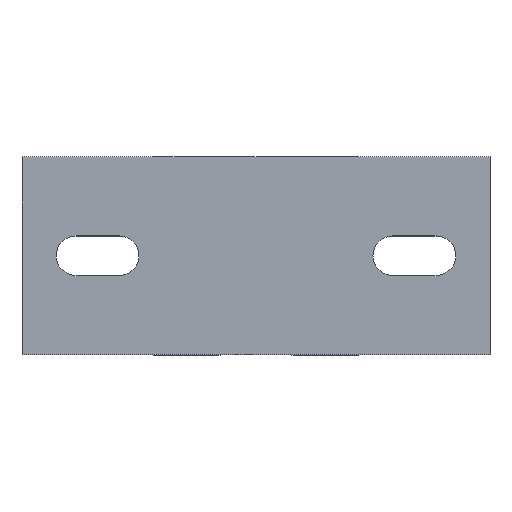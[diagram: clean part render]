
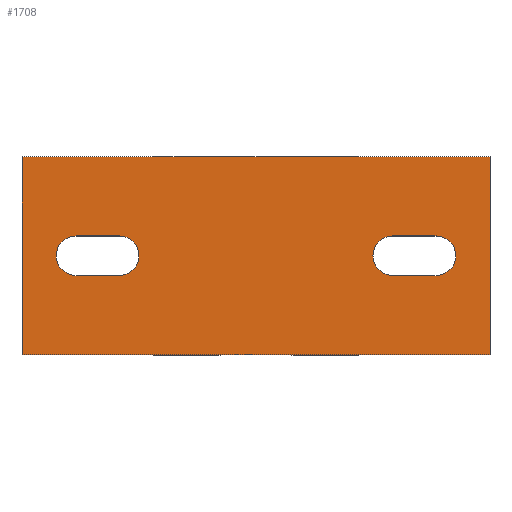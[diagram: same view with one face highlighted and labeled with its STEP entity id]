
A CAD part, top view. The second image highlights one B-rep face of the part: STEP entity #1708.
In plain terms, the highlighted planar face has unit normal (0, 0, 1).
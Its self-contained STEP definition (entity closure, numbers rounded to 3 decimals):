
#70=FACE_BOUND('',#346,.T.);
#71=FACE_BOUND('',#347,.T.);
#216=FACE_OUTER_BOUND('',#345,.T.);
#345=EDGE_LOOP('',(#1448,#1449,#1450,#1451));
#346=EDGE_LOOP('',(#1452,#1453,#1454,#1455));
#347=EDGE_LOOP('',(#1456,#1457,#1458,#1459));
#419=CIRCLE('',#1855,11.);
#421=CIRCLE('',#1859,11.);
#423=CIRCLE('',#1864,11.);
#425=CIRCLE('',#1868,11.);
#552=LINE('',#2756,#702);
#556=LINE('',#2767,#706);
#558=LINE('',#2772,#708);
#563=LINE('',#2786,#713);
#566=LINE('',#2796,#716);
#570=LINE('',#2804,#720);
#573=LINE('',#2810,#723);
#576=LINE('',#2815,#726);
#702=VECTOR('',#2273,24.);
#706=VECTOR('',#2285,24.);
#708=VECTOR('',#2289,24.);
#713=VECTOR('',#2302,24.);
#716=VECTOR('',#2313,110.);
#720=VECTOR('',#2319,260.);
#723=VECTOR('',#2324,110.);
#726=VECTOR('',#2329,260.);
#828=VERTEX_POINT('',#2746);
#829=VERTEX_POINT('',#2747);
#832=VERTEX_POINT('',#2755);
#834=VERTEX_POINT('',#2761);
#836=VERTEX_POINT('',#2770);
#837=VERTEX_POINT('',#2771);
#840=VERTEX_POINT('',#2779);
#842=VERTEX_POINT('',#2785);
#844=VERTEX_POINT('',#2794);
#845=VERTEX_POINT('',#2795);
#848=VERTEX_POINT('',#2803);
#850=VERTEX_POINT('',#2809);
#1027=EDGE_CURVE('',#828,#829,#419,.T.);
#1031=EDGE_CURVE('',#829,#832,#552,.T.);
#1034=EDGE_CURVE('',#832,#834,#421,.T.);
#1037=EDGE_CURVE('',#834,#828,#556,.T.);
#1039=EDGE_CURVE('',#836,#837,#558,.T.);
#1043=EDGE_CURVE('',#837,#840,#423,.T.);
#1046=EDGE_CURVE('',#840,#842,#563,.T.);
#1049=EDGE_CURVE('',#842,#836,#425,.T.);
#1051=EDGE_CURVE('',#844,#845,#566,.T.);
#1055=EDGE_CURVE('',#845,#848,#570,.T.);
#1058=EDGE_CURVE('',#848,#850,#573,.T.);
#1061=EDGE_CURVE('',#850,#844,#576,.T.);
#1448=ORIENTED_EDGE('',*,*,#1051,.F.);
#1449=ORIENTED_EDGE('',*,*,#1061,.F.);
#1450=ORIENTED_EDGE('',*,*,#1058,.F.);
#1451=ORIENTED_EDGE('',*,*,#1055,.F.);
#1452=ORIENTED_EDGE('',*,*,#1027,.T.);
#1453=ORIENTED_EDGE('',*,*,#1031,.T.);
#1454=ORIENTED_EDGE('',*,*,#1034,.T.);
#1455=ORIENTED_EDGE('',*,*,#1037,.T.);
#1456=ORIENTED_EDGE('',*,*,#1039,.T.);
#1457=ORIENTED_EDGE('',*,*,#1043,.T.);
#1458=ORIENTED_EDGE('',*,*,#1046,.T.);
#1459=ORIENTED_EDGE('',*,*,#1049,.T.);
#1609=PLANE('',#1874);
#1708=ADVANCED_FACE('',(#216,#70,#71),#1609,.T.);
#1855=AXIS2_PLACEMENT_3D('',#2748,#2265,#2266);
#1859=AXIS2_PLACEMENT_3D('',#2762,#2278,#2279);
#1864=AXIS2_PLACEMENT_3D('',#2780,#2295,#2296);
#1868=AXIS2_PLACEMENT_3D('',#2791,#2307,#2308);
#1874=AXIS2_PLACEMENT_3D('',#2817,#2331,#2332);
#2265=DIRECTION('center_axis',(0.,0.,-1.));
#2266=DIRECTION('ref_axis',(0.,1.,0.));
#2273=DIRECTION('',(-1.,0.,0.));
#2278=DIRECTION('center_axis',(0.,0.,-1.));
#2279=DIRECTION('ref_axis',(0.,-1.,0.));
#2285=DIRECTION('',(1.,0.,0.));
#2289=DIRECTION('',(1.,0.,0.));
#2295=DIRECTION('center_axis',(0.,0.,-1.));
#2296=DIRECTION('ref_axis',(0.,1.,0.));
#2302=DIRECTION('',(-1.,0.,0.));
#2307=DIRECTION('center_axis',(0.,0.,-1.));
#2308=DIRECTION('ref_axis',(0.,-1.,0.));
#2313=DIRECTION('',(0.,-1.,0.));
#2319=DIRECTION('',(-1.,0.,0.));
#2324=DIRECTION('',(0.,1.,0.));
#2329=DIRECTION('',(1.,0.,0.));
#2331=DIRECTION('center_axis',(0.,0.,1.));
#2332=DIRECTION('ref_axis',(1.,0.,0.));
#2746=CARTESIAN_POINT('',(-76.,11.,12.));
#2747=CARTESIAN_POINT('',(-76.,-11.,12.));
#2748=CARTESIAN_POINT('Origin',(-76.,0.,12.));
#2755=CARTESIAN_POINT('',(-100.,-11.,12.));
#2756=CARTESIAN_POINT('',(-38.,-11.,12.));
#2761=CARTESIAN_POINT('',(-100.,11.,12.));
#2762=CARTESIAN_POINT('Origin',(-100.,0.,12.));
#2767=CARTESIAN_POINT('',(-50.,11.,12.));
#2770=CARTESIAN_POINT('',(76.,11.,12.));
#2771=CARTESIAN_POINT('',(100.,11.,12.));
#2772=CARTESIAN_POINT('',(38.,11.,12.));
#2779=CARTESIAN_POINT('',(100.,-11.,12.));
#2780=CARTESIAN_POINT('Origin',(100.,0.,12.));
#2785=CARTESIAN_POINT('',(76.,-11.,12.));
#2786=CARTESIAN_POINT('',(50.,-11.,12.));
#2791=CARTESIAN_POINT('Origin',(76.,0.,12.));
#2794=CARTESIAN_POINT('',(130.,55.,12.));
#2795=CARTESIAN_POINT('',(130.,-55.,12.));
#2796=CARTESIAN_POINT('',(130.,55.,12.));
#2803=CARTESIAN_POINT('',(-130.,-55.,12.));
#2804=CARTESIAN_POINT('',(130.,-55.,12.));
#2809=CARTESIAN_POINT('',(-130.,55.,12.));
#2810=CARTESIAN_POINT('',(-130.,-55.,12.));
#2815=CARTESIAN_POINT('',(-130.,55.,12.));
#2817=CARTESIAN_POINT('Origin',(0.,0.,
12.));
